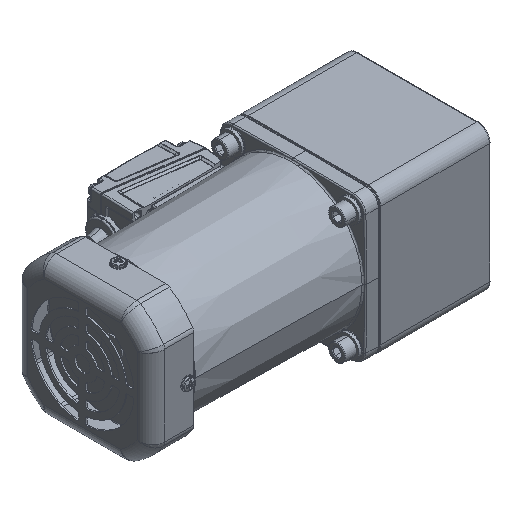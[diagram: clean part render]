
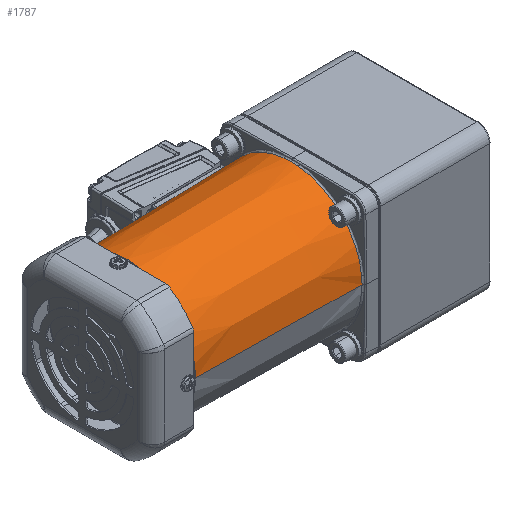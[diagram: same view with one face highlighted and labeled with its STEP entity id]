
A CAD part, isometric view. The second image highlights one B-rep face of the part: STEP entity #1787.
In plain terms, the highlighted conical face has half-angle 0.8 degrees and reference radius 42.796 mm.
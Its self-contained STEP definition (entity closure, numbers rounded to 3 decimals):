
#1246=CARTESIAN_POINT('',(0.,-51.262,-10.975));
#1247=VERTEX_POINT('',#1246);
#1280=CARTESIAN_POINT('',(0.,-49.603,-129.753));
#1281=VERTEX_POINT('',#1280);
#1282=CARTESIAN_POINT('',(0.,-51.262,-10.975));
#1283=DIRECTION('',(0.,0.014,-1.));
#1284=VECTOR('',#1283,118.79);
#1285=LINE('',#1282,#1284);
#1286=EDGE_CURVE('',#1247,#1281,#1285,.T.);
#1288=CARTESIAN_POINT('',(0.,49.603,-129.753));
#1289=VERTEX_POINT('',#1288);
#1297=CARTESIAN_POINT('',(0.,50.564,-60.986));
#1298=VERTEX_POINT('',#1297);
#1299=CARTESIAN_POINT('',(0.,49.603,-129.753));
#1300=DIRECTION('',(0.,0.014,1.));
#1301=VECTOR('',#1300,68.774);
#1302=LINE('',#1299,#1301);
#1303=EDGE_CURVE('',#1289,#1298,#1302,.T.);
#1672=CARTESIAN_POINT('',(-5.186,-50.999,-10.986));
#1673=VERTEX_POINT('',#1672);
#1681=CARTESIAN_POINT('',(-5.186,-50.999,-10.986));
#1682=CARTESIAN_POINT('',(-5.092,-51.008,-10.986));
#1683=CARTESIAN_POINT('',(-4.373,-51.08,-10.986));
#1684=CARTESIAN_POINT('',(-3.063,-51.181,-10.98));
#1685=CARTESIAN_POINT('',(-1.427,-51.25,-10.974));
#1686=CARTESIAN_POINT('',(-0.418,-51.262,-10.975));
#1687=CARTESIAN_POINT('',(0.,-51.262,-10.975));
#1688=B_SPLINE_CURVE_WITH_KNOTS('',3,(#1681,#1682,#1683,#1684,#1685,#1686,#1687),.UNSPECIFIED.,.F.,.U.,(4,1,1,1,4),(0.,0.054,0.417,0.758,1.),.UNSPECIFIED.);
#1689=EDGE_CURVE('',#1673,#1247,#1688,.T.);
#1697=CARTESIAN_POINT('',(0.,0.,-617.255));
#1698=DIRECTION('',(0.,1.,0.));
#1699=DIRECTION('',(0.,0.,1.));
#1700=AXIS2_PLACEMENT_3D('',#1697,#1699,#1698);
#1701=CONICAL_SURFACE('',#1700,42.796,0.014);
#1702=CARTESIAN_POINT('',(-50.999,-5.186,-10.986));
#1703=VERTEX_POINT('',#1702);
#1704=CARTESIAN_POINT('',(0.,0.,-10.986));
#1705=DIRECTION('',(-0.101,-0.995,0.));
#1706=DIRECTION('',(0.,0.,-1.));
#1707=AXIS2_PLACEMENT_3D('',#1704,#1706,#1705);
#1708=CIRCLE('',#1707,51.262);
#1709=EDGE_CURVE('',#1673,#1703,#1708,.T.);
#1710=ORIENTED_EDGE('E126',*,*,#1709,.T.);
#1711=CARTESIAN_POINT('',(-51.262,0.001,-10.975));
#1712=VERTEX_POINT('',#1711);
#1713=CARTESIAN_POINT('',(-50.999,-5.186,-10.986));
#1714=CARTESIAN_POINT('',(-51.004,-5.134,-10.986));
#1715=CARTESIAN_POINT('',(-51.064,-4.539,-10.986));
#1716=CARTESIAN_POINT('',(-51.162,-3.351,-10.981));
#1717=CARTESIAN_POINT('',(-51.244,-1.673,-10.975));
#1718=CARTESIAN_POINT('',(-51.262,-0.539,-10.974));
#1719=CARTESIAN_POINT('',(-51.262,0.001,-10.975));
#1720=B_SPLINE_CURVE_WITH_KNOTS('',3,(#1713,#1714,#1715,#1716,#1717,#1718,#1719),.UNSPECIFIED.,.F.,.U.,(4,1,1,1,4),(0.,0.03,0.345,0.688,1.),.UNSPECIFIED.);
#1721=EDGE_CURVE('',#1703,#1712,#1720,.T.);
#1722=ORIENTED_EDGE('E127',*,*,#1721,.T.);
#1723=CARTESIAN_POINT('',(-50.999,5.185,-10.986));
#1724=VERTEX_POINT('',#1723);
#1725=CARTESIAN_POINT('',(-51.262,0.001,-10.975));
#1726=CARTESIAN_POINT('',(-51.262,0.539,-10.974));
#1727=CARTESIAN_POINT('',(-51.244,1.668,-10.975));
#1728=CARTESIAN_POINT('',(-51.162,3.339,-10.981));
#1729=CARTESIAN_POINT('',(-51.065,4.528,-10.986));
#1730=CARTESIAN_POINT('',(-51.005,5.127,-10.986));
#1731=CARTESIAN_POINT('',(-50.999,5.185,-10.986));
#1732=B_SPLINE_CURVE_WITH_KNOTS('',3,(#1725,#1726,#1727,#1728,#1729,#1730,#1731),.UNSPECIFIED.,.F.,.U.,(4,1,1,1,4),(0.,0.311,0.652,0.967,1.),.UNSPECIFIED.);
#1733=EDGE_CURVE('',#1712,#1724,#1732,.T.);
#1734=ORIENTED_EDGE('E128',*,*,#1733,.T.);
#1735=CARTESIAN_POINT('',(-23.149,45.737,-10.986));
#1736=VERTEX_POINT('',#1735);
#1737=CARTESIAN_POINT('',(0.,0.,-10.986));
#1738=DIRECTION('',(-0.995,0.101,0.));
#1739=DIRECTION('',(0.,0.,-1.));
#1740=AXIS2_PLACEMENT_3D('',#1737,#1739,#1738);
#1741=CIRCLE('',#1740,51.262);
#1742=EDGE_CURVE('',#1724,#1736,#1741,.T.);
#1743=ORIENTED_EDGE('E129',*,*,#1742,.T.);
#1744=CARTESIAN_POINT('',(-23.157,44.981,-58.986));
#1745=VERTEX_POINT('',#1744);
#1746=CARTESIAN_POINT('',(-23.149,45.737,-10.986));
#1747=CARTESIAN_POINT('',(-23.15,45.653,-16.318));
#1748=CARTESIAN_POINT('',(-23.151,45.484,-26.982));
#1749=CARTESIAN_POINT('',(-23.154,45.234,-42.982));
#1750=CARTESIAN_POINT('',(-23.156,45.065,-53.651));
#1751=CARTESIAN_POINT('',(-23.157,44.981,-58.986));
#1752=B_SPLINE_CURVE_WITH_KNOTS('',3,(#1746,#1747,#1748,#1749,#1750,#1751),.UNSPECIFIED.,.F.,.U.,(4,1,1,4),(0.,0.333,0.667,1.),.UNSPECIFIED.);
#1753=EDGE_CURVE('',#1736,#1745,#1752,.T.);
#1754=ORIENTED_EDGE('E130',*,*,#1753,.T.);
#1755=CARTESIAN_POINT('',(-21.178,45.915,-60.986));
#1756=VERTEX_POINT('',#1755);
#1757=CARTESIAN_POINT('',(-23.157,44.981,-58.986));
#1758=CARTESIAN_POINT('',(-23.157,44.978,-59.177));
#1759=CARTESIAN_POINT('',(-23.107,44.998,-59.552));
#1760=CARTESIAN_POINT('',(-22.841,45.124,-60.131));
#1761=CARTESIAN_POINT('',(-22.406,45.335,-60.598));
#1762=CARTESIAN_POINT('',(-21.831,45.611,-60.911));
#1763=CARTESIAN_POINT('',(-21.406,45.81,-60.986));
#1764=CARTESIAN_POINT('',(-21.178,45.915,-60.986));
#1765=B_SPLINE_CURVE_WITH_KNOTS('',3,(#1757,#1758,#1759,#1760,#1761,#1762,#1763,#1764),.UNSPECIFIED.,.F.,.U.,(4,1,1,1,1,4),(0.,0.2,0.4,0.6,0.8,1.),.UNSPECIFIED.);
#1766=EDGE_CURVE('',#1745,#1756,#1765,.T.);
#1767=ORIENTED_EDGE('E131',*,*,#1766,.T.);
#1768=CARTESIAN_POINT('',(0.,0.,-60.986));
#1769=DIRECTION('',(-0.419,0.908,0.));
#1770=DIRECTION('',(0.,0.,-1.));
#1771=AXIS2_PLACEMENT_3D('',#1768,#1770,#1769);
#1772=CIRCLE('',#1771,50.564);
#1773=EDGE_CURVE('',#1756,#1298,#1772,.T.);
#1774=ORIENTED_EDGE('E132',*,*,#1773,.T.);
#1775=ORIENTED_EDGE('E132',*,*,#1303,.F.);
#1776=CARTESIAN_POINT('',(0.,0.,-129.753));
#1777=DIRECTION('',(0.,1.,0.));
#1778=DIRECTION('',(0.,0.,1.));
#1779=AXIS2_PLACEMENT_3D('',#1776,#1778,#1777);
#1780=CIRCLE('',#1779,49.603);
#1781=EDGE_CURVE('',#1289,#1281,#1780,.T.);
#1782=ORIENTED_EDGE('E133',*,*,#1781,.T.);
#1783=ORIENTED_EDGE('E133',*,*,#1286,.F.);
#1784=ORIENTED_EDGE('E133',*,*,#1689,.F.);
#1785=EDGE_LOOP('',(#1710,#1722,#1734,#1743,#1754,#1767,#1774,#1775,#1782,#1783,#1784));
#1786=FACE_OUTER_BOUND('',#1785,.T.);
#1787=ADVANCED_FACE('F45',(#1786),#1701,.T.);
